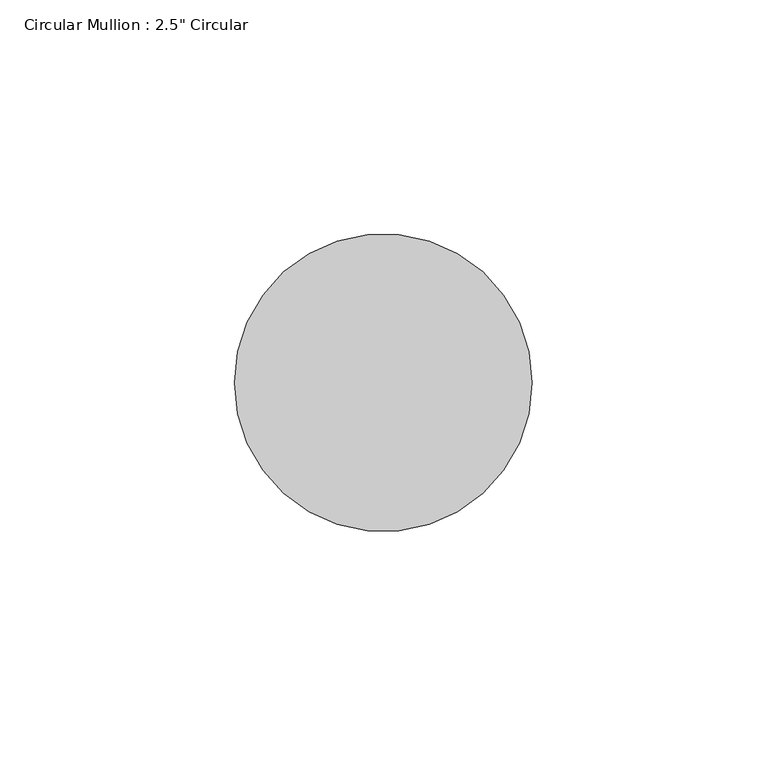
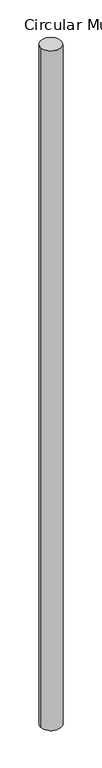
"""IFC4 building model written with IfcOpenShell, lengths in millimetres: member geometry."""

from ifc_helpers import new_model, si_unit, point, frame, origin, origin_2d, place, context, project, spatial, circle_curve, trimmed, segment, composite_curve, outline, extrude, source, transform, mapped, element, save


def member_b9548c3e(model_context):
    return source(origin(), model_context, "Body", "SweptSolid", [
        extrude(outline(composite_curve([segment(trimmed(circle_curve(origin_2d(), 31.75), [point((31.75, 0.0))], [point((-31.75, 0.0))], False, "CARTESIAN"), True, "CONTINUOUS"), segment(trimmed(circle_curve(origin_2d(), 31.75), [point((-31.75, 0.0))], [point((31.75, 0.0))], False, "CARTESIAN"), True, "CONTINUOUS")], self_intersect=False)), frame((0.0, 0.0, -2213.7567546), z_axis=(0.0, 0.0, 1.0), x_axis=(1.0, 0.0, 0.0)), (0.0, 0.0, 1.0), 2213.7567546),
    ])


if __name__ == "__main__":
    model = new_model("IFC4")
    model_context = context("Model", 3, world=origin())
    ifc_project = project(units=[si_unit("LENGTHUNIT", "METRE", prefix="MILLI")], contexts=[model_context])
    site = spatial("IfcSite", under=ifc_project)
    building = spatial("IfcBuilding", under=site)
    placement = place(None, origin())
    member_shape = member_b9548c3e(model_context)
    element("IfcMember", 1, ObjectType="Circular Mullion : 2.5\" Circular", at=placement, inside=building, context=model_context, shape_type="MappedRepresentation", body=[
        mapped(member_shape, transform((0.0, 0.0, 0.0), x_axis=(1.0, 0.0, 0.0), y_axis=(0.0, 1.0, 0.0), z_axis=(0.0, 0.0, 1.0))),
    ])
    save(model, "model.ifc")
